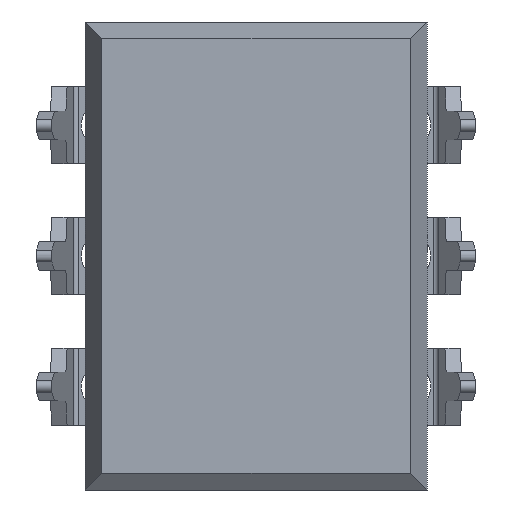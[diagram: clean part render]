
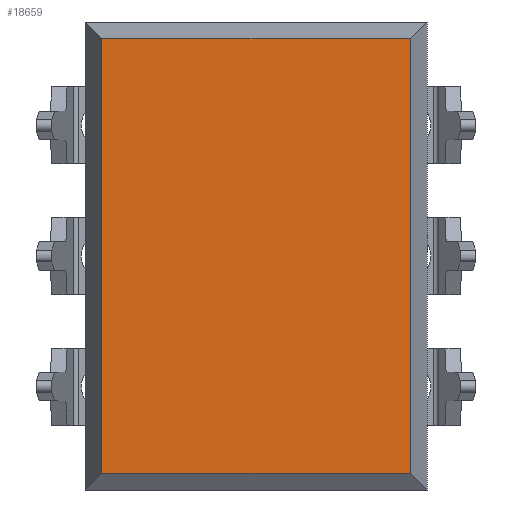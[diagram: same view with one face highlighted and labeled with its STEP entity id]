
A CAD part, front view. The second image highlights one B-rep face of the part: STEP entity #18659.
In plain terms, the highlighted planar face has unit normal (0, -1, 0).
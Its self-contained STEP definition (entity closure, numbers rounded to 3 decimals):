
#33 = VECTOR ( 'NONE', #1423, 1000. ) ;
#1231 = VECTOR ( 'NONE', #3609, 1000. ) ;
#1423 = DIRECTION ( 'NONE',  ( -1., 0., 0. ) ) ;
#2139 = LINE ( 'NONE', #8316, #10981 ) ;
#2592 = CARTESIAN_POINT ( 'NONE',  ( -2.997, 0., 9.1 ) ) ;
#3136 = EDGE_CURVE ( 'NONE', #4862, #10726, #2139, .T. ) ;
#3609 = DIRECTION ( 'NONE',  ( 0., 0., -1. ) ) ;
#4862 = VERTEX_POINT ( 'NONE', #5971 ) ;
#5442 = VECTOR ( 'NONE', #11783, 1000. ) ;
#5455 = CARTESIAN_POINT ( 'NONE',  ( 2.997, 0., 8.772 ) ) ;
#5583 = CARTESIAN_POINT ( 'NONE',  ( 2.997, 0., 9.1 ) ) ;
#5859 = CARTESIAN_POINT ( 'NONE',  ( -2.997, 0., 8.772 ) ) ;
#5971 = CARTESIAN_POINT ( 'NONE',  ( 2.997, 0., 0.328 ) ) ;
#8252 = EDGE_CURVE ( 'NONE', #19158, #16521, #9127, .T. ) ;
#8316 = CARTESIAN_POINT ( 'NONE',  ( 3.325, 0., 0.328 ) ) ;
#8768 = DIRECTION ( 'NONE',  ( 0., 1., 0. ) ) ;
#9127 = LINE ( 'NONE', #15326, #33 ) ;
#10290 = FACE_OUTER_BOUND ( 'NONE', #17716, .T. ) ;
#10726 = VERTEX_POINT ( 'NONE', #18870 ) ;
#10981 = VECTOR ( 'NONE', #14516, 1000. ) ;
#11212 = ORIENTED_EDGE ( 'NONE', *, *, #13770, .T. ) ;
#11334 = LINE ( 'NONE', #17524, #1231 ) ;
#11783 = DIRECTION ( 'NONE',  ( 0., 0., -1. ) ) ;
#13562 = ORIENTED_EDGE ( 'NONE', *, *, #3136, .F. ) ;
#13770 = EDGE_CURVE ( 'NONE', #16521, #10726, #11334, .T. ) ;
#14040 = EDGE_CURVE ( 'NONE', #19158, #4862, #19517, .T. ) ;
#14516 = DIRECTION ( 'NONE',  ( -1., 0., 0. ) ) ;
#14961 = DIRECTION ( 'NONE',  ( 0., 0., 1. ) ) ;
#15326 = CARTESIAN_POINT ( 'NONE',  ( 3.325, 0., 8.772 ) ) ;
#15353 = ORIENTED_EDGE ( 'NONE', *, *, #14040, .F. ) ;
#15568 = ORIENTED_EDGE ( 'NONE', *, *, #8252, .T. ) ;
#16497 = PLANE ( 'NONE',  #18406 ) ;
#16521 = VERTEX_POINT ( 'NONE', #5859 ) ;
#17524 = CARTESIAN_POINT ( 'NONE',  ( -2.997, 0., 9.1 ) ) ;
#17716 = EDGE_LOOP ( 'NONE', ( #15353, #15568, #11212, #13562 ) ) ;
#18406 = AXIS2_PLACEMENT_3D ( 'NONE', #2592, #8768, #14961 ) ;
#18659 = ADVANCED_FACE ( 'NONE', ( #10290 ), #16497, .F. ) ;
#18870 = CARTESIAN_POINT ( 'NONE',  ( -2.997, 0., 0.328 ) ) ;
#19158 = VERTEX_POINT ( 'NONE', #5455 ) ;
#19517 = LINE ( 'NONE', #5583, #5442 ) ;
